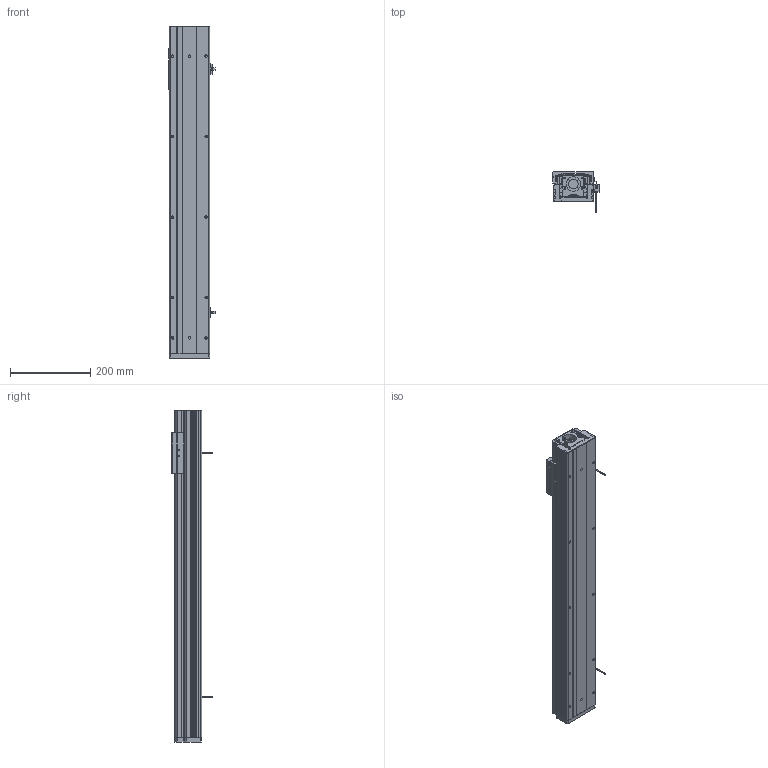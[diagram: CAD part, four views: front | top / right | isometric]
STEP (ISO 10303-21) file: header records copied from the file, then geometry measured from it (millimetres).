
FILE_DESCRIPTION (( 'STEP AP203' ), '1' );
FILE_NAME ('CTHM10-S600-O-BC.STEP', '2019-12-18T01:00:11', ( '微软用户' ), ( '微软中国' ), 'SwSTEP 2.0', 'SolidWorks 2017', '' );
FILE_SCHEMA (( 'CONFIG_CONTROL_DESIGN' ));
Length unit declared in the file: millimetre
Products named in the file (11): CTHM10綴傷裔; 覜茼え; 遣喳蝶15x12x8; CTHM10菁釱(200); EE-SX672-BR; CTHM10痄雄釱(党蜊); CTHM10-S600-O-BC; CTHM10盓傅耜; CTHM10固定侧自制轴承座; CTHM10裔啣(100); CTHM10傷裔(祥結裔啣)
Assembly tree (14 placements, depth 2):
  CTHM10-S600-O-BC
    CTHM10菁釱(200)
    CTHM10痄雄釱(党蜊)
    CTHM10盓傅耜
    CTHM10固定侧自制轴承座
    CTHM10裔啣(100)
    CTHM10傷裔(祥結裔啣)
    CTHM10綴傷裔
    覜茼え
    遣喳蝶15x12x8  x4
    EE-SX672-BR  x2
Bounding box: 114.7 x 100.2 x 825 mm (x, y, z)
Volume: 2186908.4 mm3; surface area: 735281.7 mm2
Topology: 14 solids, 14 shells, 950 faces, 2692 edges, 1756 vertices
Faces by surface type: cylinder 509, plane 397, cone 44
Entity records: 32179 total; most frequent: CARTESIAN_POINT 7763, DIRECTION 4898, ORIENTED_EDGE 4856, EDGE_CURVE 2428, AXIS2_PLACEMENT_3D 1793, VERTEX_POINT 1604, LINE 1312, VECTOR 1312
